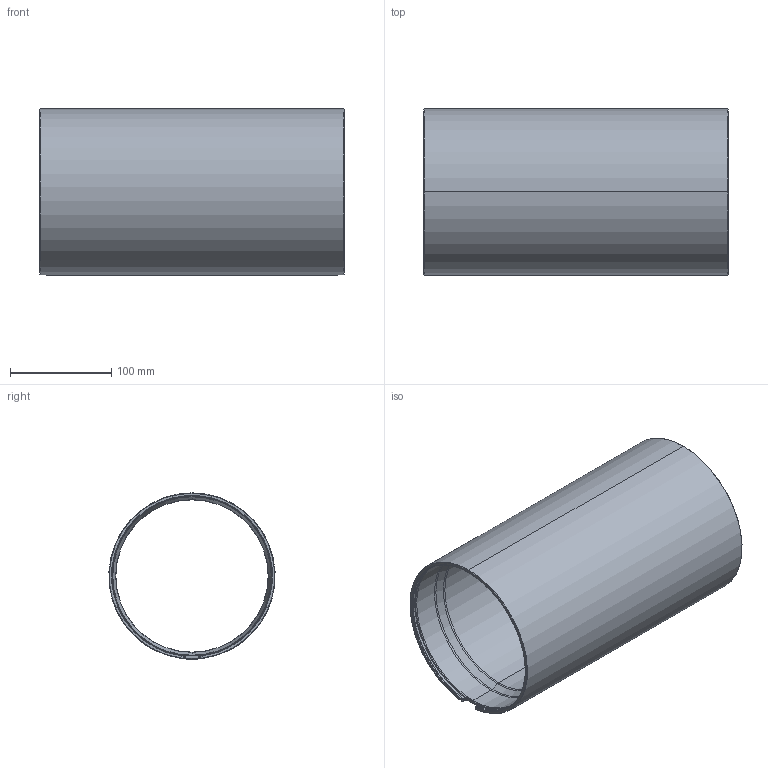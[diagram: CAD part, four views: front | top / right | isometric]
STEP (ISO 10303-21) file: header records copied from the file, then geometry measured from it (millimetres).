
FILE_DESCRIPTION (( 'STEP AP203' ), '1' );
FILE_NAME ('BR-106281-300_RevX01.step', '2026-01-13T23:37:57', ( '' ), ( '' ), 'SwSTEP 2.0', 'SolidWorks 2024', '' );
FILE_SCHEMA (( 'CONFIG_CONTROL_DESIGN' ));
Length unit declared in the file: millimetre
Products named in the file (1): BR-106281-300
Bounding box: 300 x 163.65 x 163.9 mm (x, y, z)
Volume: 902041.5 mm3; surface area: 300912.5 mm2
Topology: 1 solids, 1 shells, 90 faces, 232 edges, 142 vertices
Faces by surface type: bspline 24, torus 20, cylinder 20, cone 14, plane 12
Entity records: 6073 total; most frequent: CARTESIAN_POINT 4061, ORIENTED_EDGE 464, DIRECTION 326, EDGE_CURVE 232, AXIS2_PLACEMENT_3D 143, VERTEX_POINT 142, B_SPLINE_CURVE_WITH_KNOTS 112, ADVANCED_FACE 90
